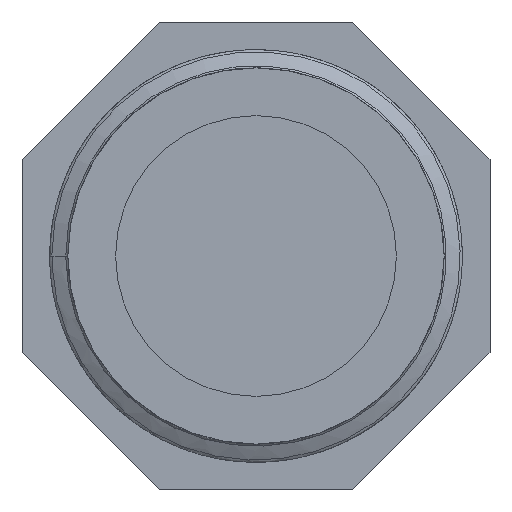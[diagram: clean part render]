
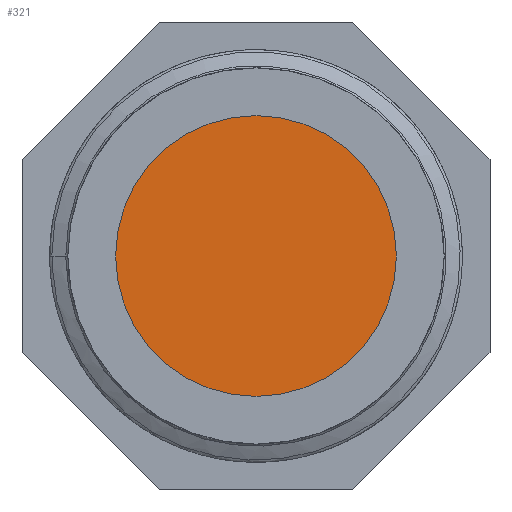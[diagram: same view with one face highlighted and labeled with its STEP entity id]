
A CAD part, front view. The second image highlights one B-rep face of the part: STEP entity #321.
In plain terms, the highlighted planar face has unit normal (0, -1, 0).
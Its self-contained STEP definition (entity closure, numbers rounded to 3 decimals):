
#22=PLANE('',#342);
#37=CIRCLE('',#343,9.);
#47=FACE_OUTER_BOUND('',#68,.T.);
#68=EDGE_LOOP('',(#263));
#166=VERTEX_POINT('',#4325);
#202=EDGE_CURVE('',#166,#166,#37,.T.);
#263=ORIENTED_EDGE('',*,*,#202,.F.);
#321=ADVANCED_FACE('',(#47),#22,.T.);
#342=AXIS2_PLACEMENT_3D('',#4324,#383,#384);
#343=AXIS2_PLACEMENT_3D('',#4326,#385,#386);
#383=DIRECTION('center_axis',(0.,-1.,0.));
#384=DIRECTION('ref_axis',(0.,0.,-1.));
#385=DIRECTION('center_axis',(0.,1.,0.));
#386=DIRECTION('ref_axis',(1.,0.,0.));
#4324=CARTESIAN_POINT('Origin',(0.,18.,0.));
#4325=CARTESIAN_POINT('',(-9.,18.,0.));
#4326=CARTESIAN_POINT('Origin',(0.,18.,0.));
